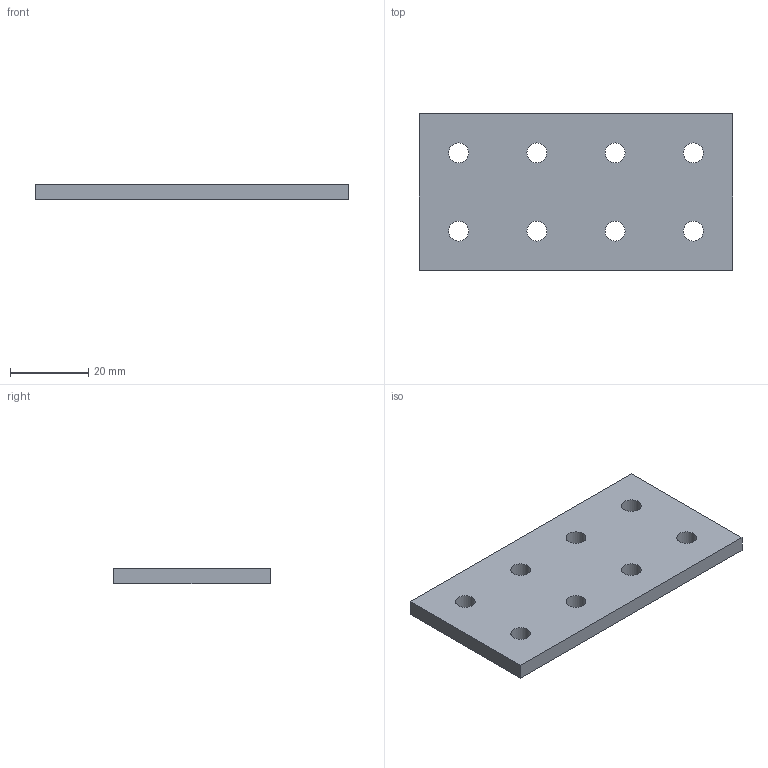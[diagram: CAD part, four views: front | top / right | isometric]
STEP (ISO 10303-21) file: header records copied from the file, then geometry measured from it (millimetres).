
FILE_DESCRIPTION(/* description */ (''),/* implementation_level */ '2;1');
FILE_NAME(/* name */ 'Plate Connector - 8 Hole - Double Slot - 20 Series - Aluminium - Silver.step',/* time_stamp */ '2025-10-18T03:39:32+03:00',/* author */ (''),/* organization */ (''),/* preprocessor_version */ 'ST-DEVELOPER v20.1',/* originating_system */ 'Autodesk Translation Framework v14.17.0.0',/* authorisation */ '');
FILE_SCHEMA (('AUTOMOTIVE_DESIGN { 1 0 10303 214 3 1 1 }'));
Length unit declared in the file: millimetre
Products named in the file (1): 8-Hole-Double-Joining-Plate
Bounding box: 80 x 40 x 4 mm (x, y, z)
Volume: 12146.3 mm3; surface area: 7545.9 mm2
Topology: 1 solids, 1 shells, 14 faces, 36 edges, 24 vertices
Faces by surface type: cylinder 8, plane 6
Full cylindrical faces by diameter (mm): 5.1 x8
Entity records: 508 total; most frequent: DIRECTION 82, CARTESIAN_POINT 75, ORIENTED_EDGE 72, EDGE_CURVE 36, AXIS2_PLACEMENT_3D 31, EDGE_LOOP 30, VERTEX_POINT 24, LINE 20
